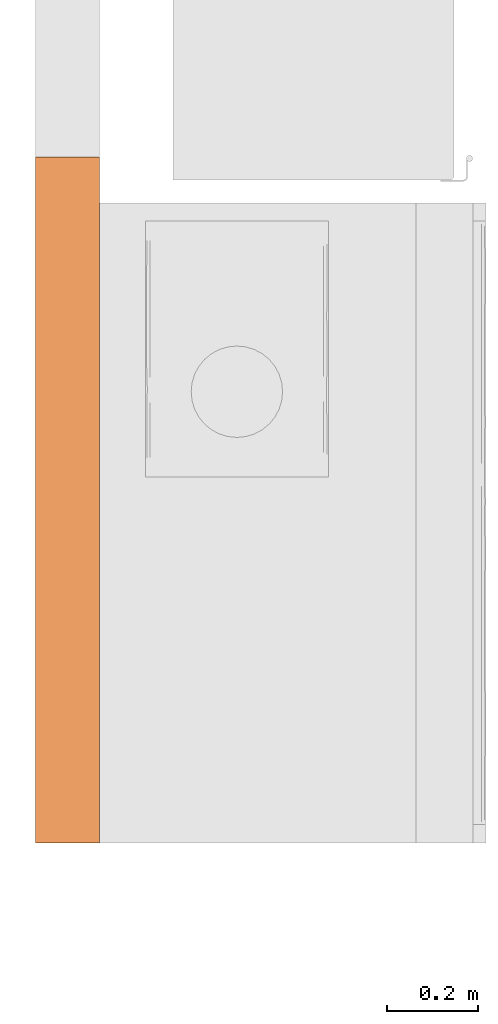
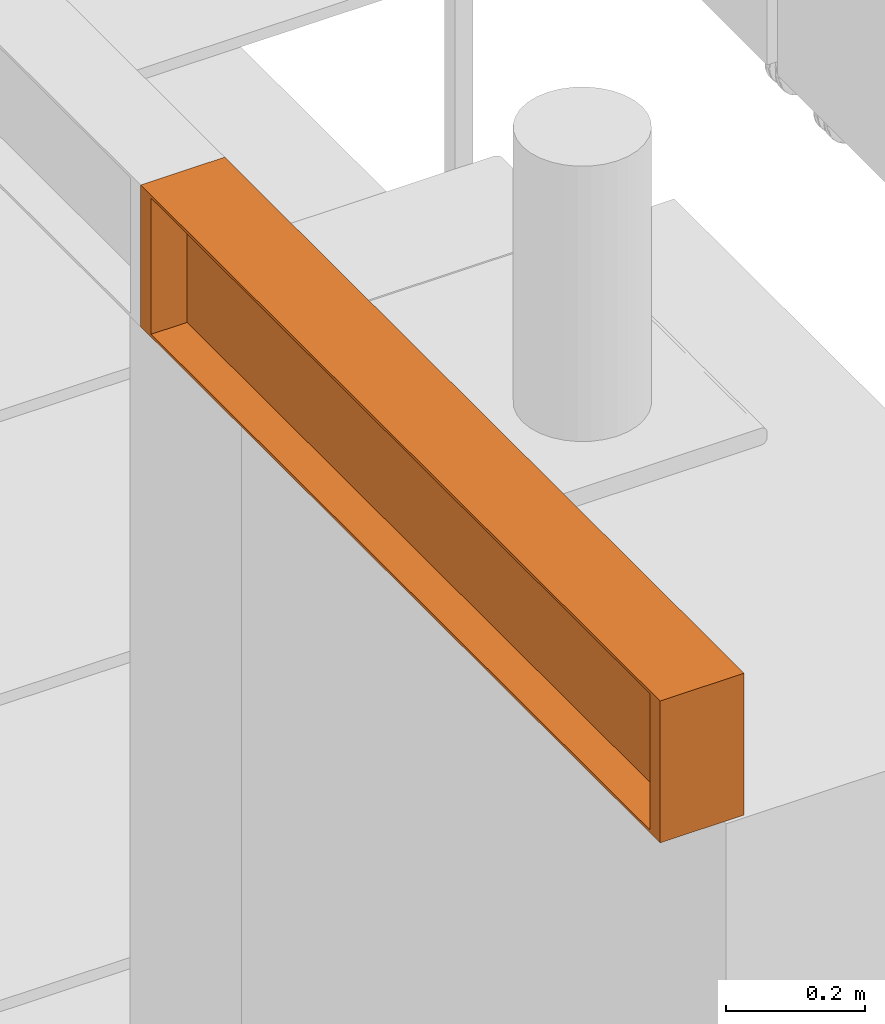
# One storey, part 1 of 43: 1 proxy.
"""IFC2X3 building model written with IfcOpenShell, lengths in metres."""

from ifc_helpers import new_model, entity, si_unit, converted_unit, derived_unit, direction, frame, frame_2d, origin, origin_2d_with_axis, place, context, subcontext, project, spatial, rectangle, extrude, source, transform, mapped, material, material_list, type_object, type_shapes, element, save


model = new_model("IFC2X3")

# Units and contexts
model_context = context("Model", 3, precision=1e-05, world=origin(), true_north=direction((6.12303176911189e-17, 1.0)))
body_context = subcontext(model_context, "Body", "Model", "MODEL_VIEW")
ifc_project = project(units=[si_unit("LENGTHUNIT", "METRE"), si_unit("AREAUNIT", "SQUARE_METRE"), si_unit("VOLUMEUNIT", "CUBIC_METRE"), converted_unit("PLANEANGLEUNIT", "DEGREE", entity("IfcRatioMeasure", 0.0174532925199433), si_unit("PLANEANGLEUNIT", "RADIAN"), dimensions=[0, 0, 0, 0, 0, 0, 0]), si_unit("MASSUNIT", "GRAM", prefix="KILO"), derived_unit("MASSDENSITYUNIT", [(si_unit("MASSUNIT", "GRAM", prefix="KILO"), 1), (si_unit("LENGTHUNIT", "METRE"), -3)]), derived_unit("MOMENTOFINERTIAUNIT", [(si_unit("LENGTHUNIT", "METRE"), 4)]), si_unit("TIMEUNIT", "SECOND"), si_unit("FREQUENCYUNIT", "HERTZ"), si_unit("THERMODYNAMICTEMPERATUREUNIT", "DEGREE_CELSIUS"), derived_unit("THERMALTRANSMITTANCEUNIT", [(si_unit("MASSUNIT", "GRAM", prefix="KILO"), 1), (si_unit("THERMODYNAMICTEMPERATUREUNIT", "KELVIN"), -1), (si_unit("TIMEUNIT", "SECOND"), -3)]), derived_unit("VOLUMETRICFLOWRATEUNIT", [(si_unit("LENGTHUNIT", "METRE"), 3), (si_unit("TIMEUNIT", "SECOND"), -1)]), si_unit("ELECTRICCURRENTUNIT", "AMPERE"), si_unit("ELECTRICVOLTAGEUNIT", "VOLT"), si_unit("POWERUNIT", "WATT"), si_unit("FORCEUNIT", "NEWTON", prefix="KILO"), si_unit("ILLUMINANCEUNIT", "LUX"), si_unit("LUMINOUSFLUXUNIT", "LUMEN"), si_unit("LUMINOUSINTENSITYUNIT", "CANDELA"), derived_unit("USERDEFINED", [(si_unit("MASSUNIT", "GRAM", prefix="KILO"), -1), (si_unit("LENGTHUNIT", "METRE"), -2), (si_unit("TIMEUNIT", "SECOND"), 3), (si_unit("LUMINOUSFLUXUNIT", "LUMEN"), 1)]), derived_unit("LINEARVELOCITYUNIT", [(si_unit("LENGTHUNIT", "METRE"), 1), (si_unit("TIMEUNIT", "SECOND"), -1)]), si_unit("PRESSUREUNIT", "PASCAL"), derived_unit("USERDEFINED", [(si_unit("LENGTHUNIT", "METRE"), -2), (si_unit("MASSUNIT", "GRAM", prefix="KILO"), 1), (si_unit("TIMEUNIT", "SECOND"), -2)]), derived_unit("LINEARFORCEUNIT", [(si_unit("MASSUNIT", "GRAM", prefix="KILO"), 1), (si_unit("LENGTHUNIT", "METRE"), 1), (si_unit("TIMEUNIT", "SECOND"), -2), (si_unit("LENGTHUNIT", "METRE"), -1)]), derived_unit("PLANARFORCEUNIT", [(si_unit("MASSUNIT", "GRAM", prefix="KILO"), 1), (si_unit("LENGTHUNIT", "METRE"), 1), (si_unit("TIMEUNIT", "SECOND"), -2), (si_unit("LENGTHUNIT", "METRE"), -2)])], contexts=[model_context])

# Site, building, storey
site_placement = place(None, origin())
site = spatial("IfcSite", under=ifc_project, at=site_placement, Name="Default", CompositionType="ELEMENT")
building_placement = place(site_placement, origin())
building = spatial("IfcBuilding", under=site, at=building_placement, CompositionType="ELEMENT")
storey_placement = place(building_placement, frame((0.0, 0.0, 3.0)))
storey = spatial("IfcBuildingStorey", under=building, at=storey_placement, Name="01 OG", CompositionType="ELEMENT", Elevation=3.0)

# Proxy
ifc_material_1 = material(Name="dh_EZ blau")
ifc_material_2 = material(Name="dh_Weiß")
ifc_material_list_1 = material_list([ifc_material_1, ifc_material_2])
ifc_material_3 = material(Name="dh_Blau")
ifc_material_list_2 = material_list([ifc_material_2, ifc_material_3, ifc_material_1])
building_element_proxy_type = type_object("IfcBuildingElementProxyType", Name="dh_Einzel_ MEK:MEK 150", PredefinedType="NOTDEFINED", material=ifc_material_list_2)
shared_shape = source(origin(), body_context, "Body", "SweptSolid", [
    extrude(rectangle(XDim=0.06, YDim=0.0299999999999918, at=origin_2d_with_axis()), frame((0.88500000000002, 0.33, 2.19499999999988), z_axis=(0.0, 0.0, 1.0), x_axis=(0.0, 1.0, 0.0)), (0.0, 0.0, 1.0), 0.240000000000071),
    extrude(rectangle(XDim=0.06, YDim=0.0299999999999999, at=origin_2d_with_axis()), frame((-0.584999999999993, 0.33, 2.19499999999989), z_axis=(0.0, 0.0, 1.0), x_axis=(0.0, 1.0, 0.0)), (0.0, 0.0, 1.0), 0.240000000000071),
    extrude(rectangle(XDim=0.06, YDim=1.50000000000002, at=origin_2d_with_axis()), frame((0.150000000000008, 0.33, 2.43499999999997), z_axis=(0.0, 0.0, 1.0), x_axis=(0.0, 1.0, 0.0)), (0.0, 0.0, 1.0), 0.00499999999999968),
    extrude(rectangle(XDim=1.50000000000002, YDim=0.14, at=frame_2d((-2.4980018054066e-15, -0.00333333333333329), x_axis=(1.0, 0.0))), frame((0.15000000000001, 0.293333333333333, 2.18999999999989)), (0.0, 0.0, 1.0), 0.00499999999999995),
    extrude(rectangle(XDim=0.08, YDim=1.50000000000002, at=frame_2d((0.0133333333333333, -1.11022302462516e-16), x_axis=(1.0, 0.0))), frame((0.150000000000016, 0.273333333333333, 2.43499999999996), z_axis=(0.0, 0.0, 1.0), x_axis=(0.0, -1.0, 0.0)), (0.0, 0.0, 1.0), 0.00500000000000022),
    extrude(rectangle(XDim=1.5, YDim=0.08, at=frame_2d((0.0, 3.46944695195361e-17), x_axis=(1.0, 0.0))), frame((0.15, 0.26, 2.195), z_axis=(0.0, 0.0, 1.0), x_axis=(-1.0, 0.0, 0.0)), (0.0, 0.0, 1.0), 0.239999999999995),
])
type_shapes(building_element_proxy_type, [shared_shape])
proxy_placement = place(storey_placement, frame((10.5100000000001, 10.924, 0.7), z_axis=(0.0, 0.0, 1.0), x_axis=(0.0, 1.0, 0.0)))
element("IfcBuildingElementProxy", 1, at=proxy_placement, inside=storey, type_object=building_element_proxy_type, material=ifc_material_list_1, Name="dh_Einzel_ MEK:MEK 150", ObjectType="dh_Einzel_ MEK:MEK 150", context=body_context, shape_type="MappedRepresentation", body=[
    mapped(shared_shape, transform((0.0, 0.0, 0.0), scale=1.0)),
])

save(model, "model.ifc")
